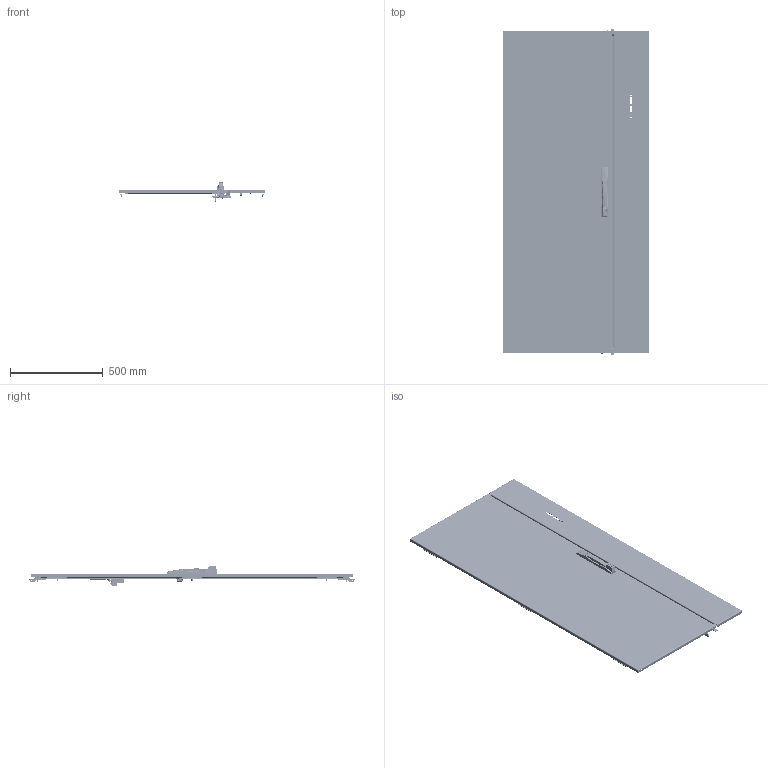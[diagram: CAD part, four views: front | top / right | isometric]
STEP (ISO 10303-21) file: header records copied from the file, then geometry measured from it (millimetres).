
FILE_DESCRIPTION (( 'STEP AP203' ), '1' );
FILE_NAME ('ptddc188.STEP', '2011-01-20T18:50:43', ( 'Hoffman User' ), ( 'Hoffman Enclosures' ), 'SwSTEP 2.0', 'SolidWorks 2009', '' );
FILE_SCHEMA (( 'CONFIG_CONTROL_DESIGN' ));
Length unit declared in the file: inch
Products named in the file (59): 89046023_89046023; 89046024_89046024; 60127374_60127374; 11258925_11258925; 87547289_875472289; 21158168_Locked; 11358767_11358767; 11258702_11258702; 64205001; 87541995; 11258914_11258914; 11258907_11258907; 11258703_11258703; 11258741_11258741; 87402653_87402653; 89046021_89046021; 60127101_After Weld; 87546578_87546578; 87787067_87787067; 46252001; 87790201_87790201; 60127214_601272214; ptddc188; 87953133; 87920638_87920638; 87931362_87931362; 22127033_22127033; 60127382_60127382; 60127197_60127197; 11458038_11458038; 11458036; 60127208; 87540678; 64210001; 11258598_11258598; 11258701_11258701; 87541994_Installed Height; 87927840_87927840; 11258913_11258913; 11258906_11258906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
Assembly tree (104 placements, depth 5):
  ptddc188
    87417525_BBD
      60127214_601272214  x6
        60127135_Installed postion
        87790201_87790201
        60127199_60127199
        56906712_56906712
      87790199  x6
    87953110
      46252001
      87789291_87789291  x2
      89046022_89046022
        60127101_After Weld  x3
        99404026_99404026  x3
        87787067_87787067  x2
        89046021_89046021
        60100041_60100041
          87931368_SLEEVE
          87931527_87931527
      87546578_87546578  x2
      26149001_26149001
    87953133
      87402653_87402653
      87781204_87781204
      89046024_89046024
        87920638_87920638  x6
        87931362_87931362  x8
        60100041_60100041  x2
          87931368_SLEEVE
          87931527_87931527
        60127101_After Weld  x3
        89046023_89046023
      11258703_11258703  x4
      22127033_22127033
        60127374_60127374  x2
        87547289_875472289  x4
        60127382_60127382  x2
      11258913_11258913
        11258741_11258741
        51155001_51155001
          11258699_11258699
          11158435_11158435
          46139003_46139003
        11258906_11258906
      60127197_60127197
        11258925_11258925
        11358767_11358767
        11458038_11458038
        11458036
        60127208
      11258914_11258914
        51155001_51155001
          11258699_11258699
          11158435_11158435
          46139003_46139003
        11258907_11258907
        11258741_11258741
      21158111
      21158168_Locked
        87540678
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Bounding box: 791.51 x 1752.12 x 105.66 mm (x, y, z)
Volume: 3741271 mm3; surface area: 4434196.9 mm2
Topology: 116 solids, 116 shells, 8946 faces, 22320 edges, 13776 vertices
Faces by surface type: plane 4520, cylinder 2784, torus 856, bspline 383, cone 373, sphere 30
Entity records: 153967 total; most frequent: CARTESIAN_POINT 49629, ORIENTED_EDGE 20528, DIRECTION 19742, EDGE_CURVE 10264, AXIS2_PLACEMENT_3D 7189, VERTEX_POINT 6433, VECTOR 5364, LINE 5364
